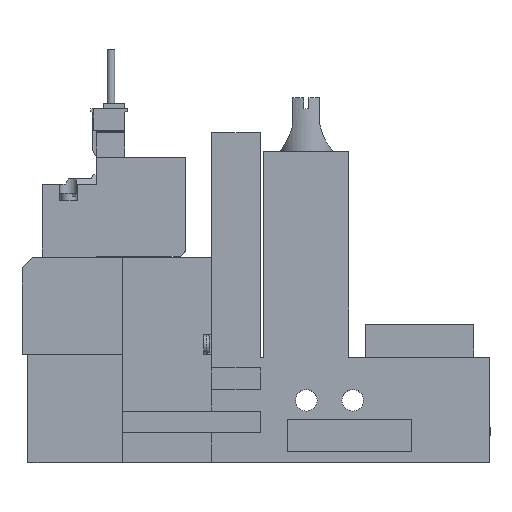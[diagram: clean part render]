
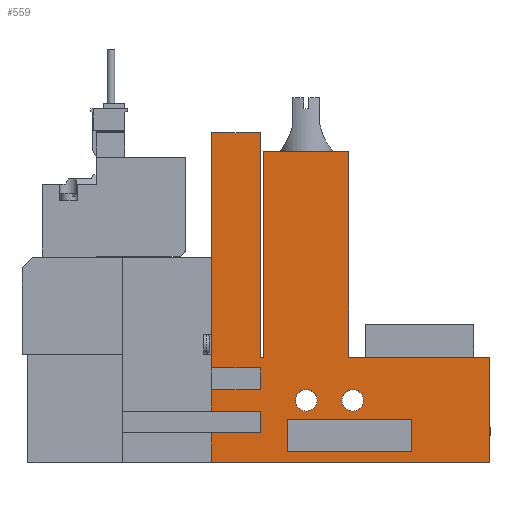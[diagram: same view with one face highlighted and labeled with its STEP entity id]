
A CAD part, top view. The second image highlights one B-rep face of the part: STEP entity #559.
In plain terms, the highlighted planar face has unit normal (0, 0, 1).
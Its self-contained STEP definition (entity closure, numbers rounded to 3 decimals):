
#559=ADVANCED_FACE('',(#1142,#1143,#1144,#1145),#1146,.T.);
#1142=FACE_OUTER_BOUND('',#1845,.T.);
#1143=FACE_BOUND('',#1846,.T.);
#1144=FACE_BOUND('',#1847,.T.);
#1145=FACE_BOUND('',#1848,.T.);
#1146=PLANE('',#1849);
#1845=EDGE_LOOP('',(#4007,#4008,#4009,#4010,#4011,#4012,#4013,#4014,#4015,#4016,#4017,#4018,#4019,#4020,#4021,#4022,#4023,#4024));
#1846=EDGE_LOOP('',(#4025,#4026,#4027,#4028));
#1847=EDGE_LOOP('',(#4029));
#1848=EDGE_LOOP('',(#4030));
#1849=AXIS2_PLACEMENT_3D('',#4031,#4032,#4033);
#4007=ORIENTED_EDGE('',*,*,#5370,.T.);
#4008=ORIENTED_EDGE('',*,*,#5371,.T.);
#4009=ORIENTED_EDGE('',*,*,#5326,.T.);
#4010=ORIENTED_EDGE('',*,*,#5372,.T.);
#4011=ORIENTED_EDGE('',*,*,#5373,.T.);
#4012=ORIENTED_EDGE('',*,*,#5374,.T.);
#4013=ORIENTED_EDGE('',*,*,#5375,.T.);
#4014=ORIENTED_EDGE('',*,*,#5376,.T.);
#4015=ORIENTED_EDGE('',*,*,#5377,.T.);
#4016=ORIENTED_EDGE('',*,*,#5365,.T.);
#4017=ORIENTED_EDGE('',*,*,#5378,.T.);
#4018=ORIENTED_EDGE('',*,*,#5379,.T.);
#4019=ORIENTED_EDGE('',*,*,#5343,.T.);
#4020=ORIENTED_EDGE('',*,*,#5380,.T.);
#4021=ORIENTED_EDGE('',*,*,#5381,.T.);
#4022=ORIENTED_EDGE('',*,*,#5382,.T.);
#4023=ORIENTED_EDGE('',*,*,#5383,.T.);
#4024=ORIENTED_EDGE('',*,*,#5384,.T.);
#4025=ORIENTED_EDGE('',*,*,#5385,.T.);
#4026=ORIENTED_EDGE('',*,*,#5386,.T.);
#4027=ORIENTED_EDGE('',*,*,#5387,.T.);
#4028=ORIENTED_EDGE('',*,*,#5388,.T.);
#4029=ORIENTED_EDGE('',*,*,#5389,.T.);
#4030=ORIENTED_EDGE('',*,*,#5390,.T.);
#4031=CARTESIAN_POINT('',(0.0,0.0,10.0));
#4032=DIRECTION('',(0.0,0.0,1.0));
#4033=DIRECTION('',(1.0,0.0,0.0));
#5326=EDGE_CURVE('',#6578,#6583,#6585,.T.);
#5343=EDGE_CURVE('',#6616,#6614,#6617,.T.);
#5365=EDGE_CURVE('',#6658,#6656,#6659,.T.);
#5370=EDGE_CURVE('',#6667,#6668,#6669,.T.);
#5371=EDGE_CURVE('',#6668,#6578,#6670,.T.);
#5372=EDGE_CURVE('',#6583,#6671,#6672,.T.);
#5373=EDGE_CURVE('',#6671,#6673,#6674,.T.);
#5374=EDGE_CURVE('',#6673,#6675,#6676,.T.);
#5375=EDGE_CURVE('',#6675,#6677,#6678,.T.);
#5376=EDGE_CURVE('',#6677,#6679,#6680,.T.);
#5377=EDGE_CURVE('',#6679,#6658,#6681,.T.);
#5378=EDGE_CURVE('',#6656,#6682,#6683,.T.);
#5379=EDGE_CURVE('',#6682,#6616,#6684,.T.);
#5380=EDGE_CURVE('',#6614,#6685,#6686,.T.);
#5381=EDGE_CURVE('',#6685,#6687,#6688,.T.);
#5382=EDGE_CURVE('',#6687,#6689,#6690,.T.);
#5383=EDGE_CURVE('',#6689,#6691,#6692,.T.);
#5384=EDGE_CURVE('',#6691,#6667,#6693,.T.);
#5385=EDGE_CURVE('',#6694,#6695,#6696,.T.);
#5386=EDGE_CURVE('',#6695,#6697,#6698,.T.);
#5387=EDGE_CURVE('',#6697,#6699,#6700,.T.);
#5388=EDGE_CURVE('',#6699,#6694,#6701,.T.);
#5389=EDGE_CURVE('',#6702,#6702,#6703,.T.);
#5390=EDGE_CURVE('',#6704,#6704,#6705,.T.);
#6578=VERTEX_POINT('',#8593);
#6583=VERTEX_POINT('',#8600);
#6585=LINE('',#8603,#8604);
#6614=VERTEX_POINT('',#8646);
#6616=VERTEX_POINT('',#8649);
#6617=LINE('',#8650,#8651);
#6656=VERTEX_POINT('',#8709);
#6658=VERTEX_POINT('',#8712);
#6659=LINE('',#8713,#8714);
#6667=VERTEX_POINT('',#8726);
#6668=VERTEX_POINT('',#8727);
#6669=LINE('',#8728,#8729);
#6670=LINE('',#8730,#8731);
#6671=VERTEX_POINT('',#8732);
#6672=LINE('',#8733,#8734);
#6673=VERTEX_POINT('',#8735);
#6674=LINE('',#8736,#8737);
#6675=VERTEX_POINT('',#8738);
#6676=LINE('',#8739,#8740);
#6677=VERTEX_POINT('',#8741);
#6678=LINE('',#8742,#8743);
#6679=VERTEX_POINT('',#8744);
#6680=LINE('',#8745,#8746);
#6681=LINE('',#8747,#8748);
#6682=VERTEX_POINT('',#8749);
#6683=LINE('',#8750,#8751);
#6684=LINE('',#8752,#8753);
#6685=VERTEX_POINT('',#8754);
#6686=LINE('',#8755,#8756);
#6687=VERTEX_POINT('',#8757);
#6688=LINE('',#8758,#8759);
#6689=VERTEX_POINT('',#8760);
#6690=LINE('',#8761,#8762);
#6691=VERTEX_POINT('',#8763);
#6692=LINE('',#8764,#8765);
#6693=LINE('',#8766,#8767);
#6694=VERTEX_POINT('',#8768);
#6695=VERTEX_POINT('',#8769);
#6696=LINE('',#8770,#8771);
#6697=VERTEX_POINT('',#8772);
#6698=LINE('',#8773,#8774);
#6699=VERTEX_POINT('',#8775);
#6700=LINE('',#8776,#8777);
#6701=LINE('',#8778,#8779);
#6702=VERTEX_POINT('',#8780);
#6703=CIRCLE('',#8781,2.0);
#6704=VERTEX_POINT('',#8782);
#6705=CIRCLE('',#8783,2.0);
#8593=CARTESIAN_POINT('',(44.1,17.5,10.0));
#8600=CARTESIAN_POINT('',(44.1,13.5,10.0));
#8603=CARTESIAN_POINT('',(44.1,0.0,10.0));
#8604=VECTOR('',#9958,1.0);
#8646=CARTESIAN_POINT('',(60.45,57.5,10.0));
#8649=CARTESIAN_POINT('',(60.45,19.5,10.0));
#8650=CARTESIAN_POINT('',(60.45,19.5,10.0));
#8651=VECTOR('',#9979,1.0);
#8709=CARTESIAN_POINT('',(86.6,0.0,10.0));
#8712=CARTESIAN_POINT('',(35.1,0.0,10.0));
#8713=CARTESIAN_POINT('',(18.6,0.0,10.0));
#8714=VECTOR('',#10003,1.0);
#8726=CARTESIAN_POINT('',(35.1,61.0,10.0));
#8727=CARTESIAN_POINT('',(35.1,17.5,10.0));
#8728=CARTESIAN_POINT('',(35.1,61.0,10.0));
#8729=VECTOR('',#10008,1.0);
#8730=CARTESIAN_POINT('',(0.0,17.5,10.0));
#8731=VECTOR('',#10009,1.0);
#8732=CARTESIAN_POINT('',(35.1,13.5,10.0));
#8733=CARTESIAN_POINT('',(0.0,13.5,10.0));
#8734=VECTOR('',#10010,1.0);
#8735=CARTESIAN_POINT('',(35.1,9.5,10.0));
#8736=CARTESIAN_POINT('',(35.1,0.0,10.0));
#8737=VECTOR('',#10011,1.0);
#8738=CARTESIAN_POINT('',(44.1,9.5,10.0));
#8739=CARTESIAN_POINT('',(0.0,9.5,10.0));
#8740=VECTOR('',#10012,1.0);
#8741=CARTESIAN_POINT('',(44.1,5.5,10.0));
#8742=CARTESIAN_POINT('',(44.1,0.0,10.0));
#8743=VECTOR('',#10013,1.0);
#8744=CARTESIAN_POINT('',(35.1,5.5,10.0));
#8745=CARTESIAN_POINT('',(0.0,5.5,10.0));
#8746=VECTOR('',#10014,1.0);
#8747=CARTESIAN_POINT('',(35.1,0.0,10.0));
#8748=VECTOR('',#10015,1.0);
#8749=CARTESIAN_POINT('',(86.6,19.5,10.0));
#8750=CARTESIAN_POINT('',(86.6,0.0,10.0));
#8751=VECTOR('',#10016,1.0);
#8752=CARTESIAN_POINT('',(86.6,19.5,10.0));
#8753=VECTOR('',#10017,1.0);
#8754=CARTESIAN_POINT('',(44.75,57.5,10.0));
#8755=CARTESIAN_POINT('',(60.45,57.5,10.0));
#8756=VECTOR('',#10018,1.0);
#8757=CARTESIAN_POINT('',(44.75,19.5,10.0));
#8758=CARTESIAN_POINT('',(44.75,57.5,10.0));
#8759=VECTOR('',#10019,1.0);
#8760=CARTESIAN_POINT('',(44.1,19.5,10.0));
#8761=CARTESIAN_POINT('',(44.75,19.5,10.0));
#8762=VECTOR('',#10020,1.0);
#8763=CARTESIAN_POINT('',(44.1,61.0,10.0));
#8764=CARTESIAN_POINT('',(44.1,19.5,10.0));
#8765=VECTOR('',#10021,1.0);
#8766=CARTESIAN_POINT('',(44.1,61.0,10.0));
#8767=VECTOR('',#10022,1.0);
#8768=CARTESIAN_POINT('',(49.1,2.0,10.0));
#8769=CARTESIAN_POINT('',(49.1,8.0,10.0));
#8770=CARTESIAN_POINT('',(49.1,0.0,10.0));
#8771=VECTOR('',#10023,1.0);
#8772=CARTESIAN_POINT('',(72.1,8.0,10.0));
#8773=CARTESIAN_POINT('',(0.0,8.0,10.0));
#8774=VECTOR('',#10024,1.0);
#8775=CARTESIAN_POINT('',(72.1,2.0,10.0));
#8776=CARTESIAN_POINT('',(72.1,0.0,10.0));
#8777=VECTOR('',#10025,1.0);
#8778=CARTESIAN_POINT('',(0.0,2.0,10.0));
#8779=VECTOR('',#10026,1.0);
#8780=CARTESIAN_POINT('',(54.6,11.5,10.0));
#8781=AXIS2_PLACEMENT_3D('',#10027,#10028,#10029);
#8782=CARTESIAN_POINT('',(63.2,11.5,10.0));
#8783=AXIS2_PLACEMENT_3D('',#10030,#10031,#10032);
#9958=DIRECTION('',(0.0,-1.0,0.0));
#9979=DIRECTION('',(0.0,1.0,0.0));
#10003=DIRECTION('',(1.0,0.0,0.0));
#10008=DIRECTION('',(0.0,-1.0,0.0));
#10009=DIRECTION('',(1.0,0.0,0.0));
#10010=DIRECTION('',(-1.0,0.0,0.0));
#10011=DIRECTION('',(0.0,-1.0,0.0));
#10012=DIRECTION('',(1.0,0.0,0.0));
#10013=DIRECTION('',(0.0,-1.0,0.0));
#10014=DIRECTION('',(-1.0,0.0,0.0));
#10015=DIRECTION('',(0.0,-1.0,0.0));
#10016=DIRECTION('',(0.0,1.0,0.0));
#10017=DIRECTION('',(-1.0,0.0,0.0));
#10018=DIRECTION('',(-1.0,0.0,0.0));
#10019=DIRECTION('',(0.0,-1.0,0.0));
#10020=DIRECTION('',(-1.0,0.0,0.0));
#10021=DIRECTION('',(0.0,1.0,0.0));
#10022=DIRECTION('',(-1.0,0.0,0.0));
#10023=DIRECTION('',(0.0,1.0,0.0));
#10024=DIRECTION('',(1.0,0.0,0.0));
#10025=DIRECTION('',(0.0,-1.0,0.0));
#10026=DIRECTION('',(-1.0,0.0,0.0));
#10027=CARTESIAN_POINT('',(52.6,11.5,10.0));
#10028=DIRECTION('',(0.0,0.0,-1.0));
#10029=DIRECTION('',(1.0,0.0,0.0));
#10030=CARTESIAN_POINT('',(61.2,11.5,10.0));
#10031=DIRECTION('',(0.0,0.0,-1.0));
#10032=DIRECTION('',(1.0,0.0,0.0));
